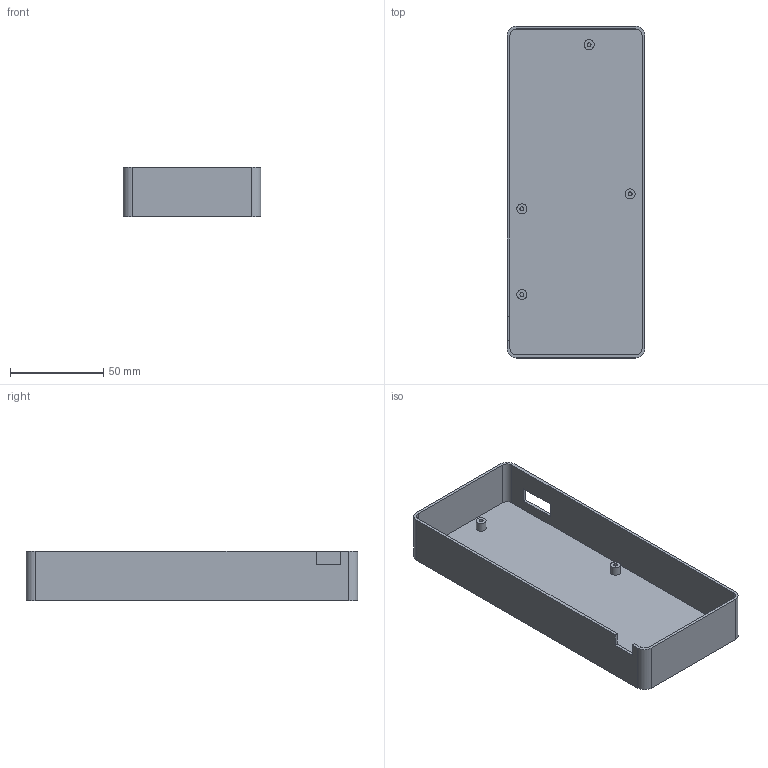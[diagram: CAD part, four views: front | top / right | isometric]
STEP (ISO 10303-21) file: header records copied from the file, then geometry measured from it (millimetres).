
FILE_DESCRIPTION(('Open CASCADE Model'),'2;1');
FILE_NAME('Open CASCADE Shape Model','2026-09-22T07:23:23',('Author'),( 'Open CASCADE'),'Open CASCADE STEP processor 7.9','Open CASCADE 7.9' ,'Unknown');
FILE_SCHEMA(('AUTOMOTIVE_DESIGN { 1 0 10303 214 1 1 1 1 }'));
Length unit declared in the file: millimetre
Products named in the file (1): Open CASCADE STEP translator 7.9 1
Bounding box: 74 x 178 x 26.4 mm (x, y, z)
Volume: 40470.6 mm3; surface area: 51504.7 mm2
Topology: 1 solids, 1 shells, 42 faces, 96 edges, 64 vertices
Faces by surface type: plane 26, cylinder 16
Full cylindrical faces by diameter (mm): 2.1 x4, 5.4 x4
Entity records: 2496 total; most frequent: CARTESIAN_POINT 479, DIRECTION 392, LINE 224, VECTOR 224, ORIENTED_EDGE 192, PCURVE 192, DEFINITIONAL_REPRESENTATION 192, EDGE_CURVE 96
